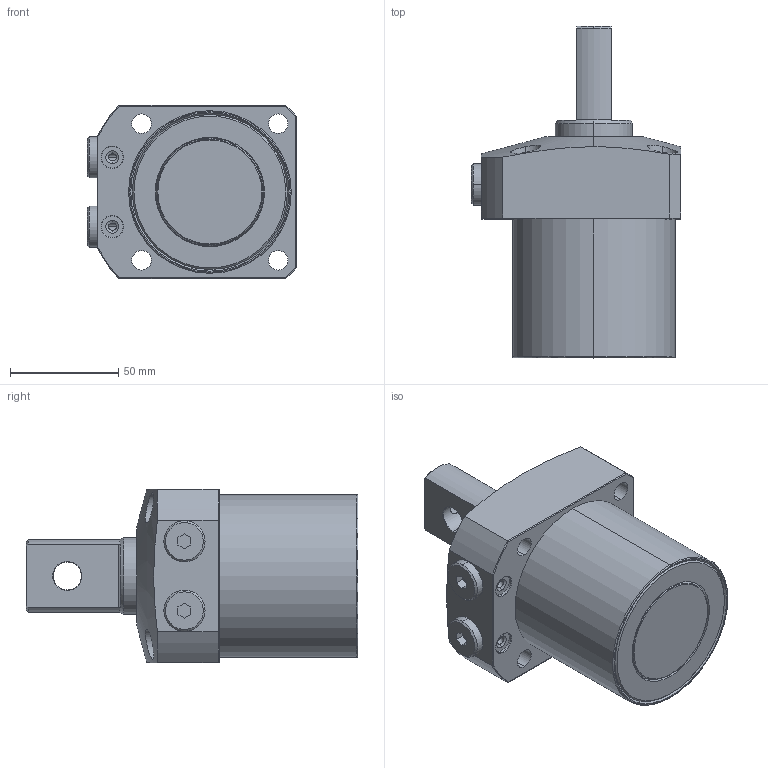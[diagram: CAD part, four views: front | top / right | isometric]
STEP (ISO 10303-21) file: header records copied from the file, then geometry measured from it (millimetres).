
FILE_DESCRIPTION (( 'STEP AP203' ), '1' );
FILE_NAME ('20630-CR-P.step', '2019-06-24T03:13:27', ( '微软用户' ), ( '微软中国' ), 'SwSTEP 2.0', 'SolidWorks 2014', '' );
FILE_SCHEMA (( 'CONFIG_CONTROL_DESIGN' ));
Length unit declared in the file: millimetre
Products named in the file (5): 20630-C-P-1^20630-CR-P; 20630-C-P-2^20630-CR-P; 20630-C-P-3^20630-CR-P; 20630-C-P-4^20630-CR-P; 20630-CR-P
Assembly tree (5 placements, depth 2):
  20630-CR-P
    20630-C-P-1^20630-CR-P
    20630-C-P-2^20630-CR-P
    20630-C-P-3^20630-CR-P
    20630-C-P-4^20630-CR-P  x2
Bounding box: 96.5 x 153 x 80 mm (x, y, z)
Volume: 570909.8 mm3; surface area: 63189.6 mm2
Topology: 5 solids, 5 shells, 169 faces, 383 edges, 239 vertices
Faces by surface type: cylinder 67, plane 53, cone 37, torus 12
Entity records: 5611 total; most frequent: CARTESIAN_POINT 1524, DIRECTION 774, ORIENTED_EDGE 710, EDGE_CURVE 355, AXIS2_PLACEMENT_3D 319, VERTEX_POINT 221, EDGE_LOOP 186, ADVANCED_FACE 156
